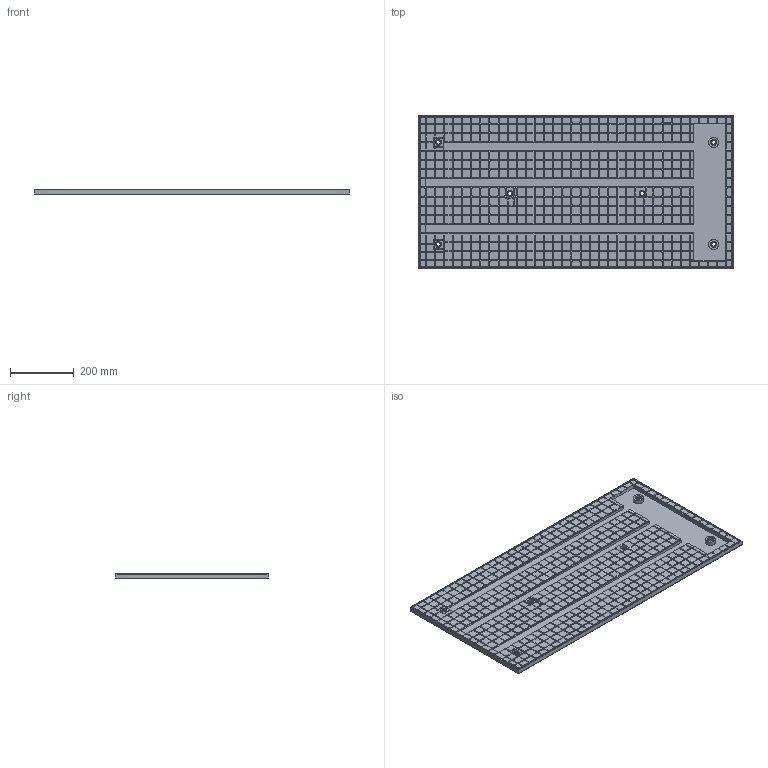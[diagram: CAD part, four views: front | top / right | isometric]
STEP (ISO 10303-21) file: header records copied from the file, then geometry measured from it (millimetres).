
FILE_DESCRIPTION(/* description */ (''),/* implementation_level */ '2;1');
FILE_NAME(/* name */ 'J:/ENG DWG FILES/MACHINE JIGS/Vacuum Plate/Vacuum Plate v21.step',/* time_stamp */ '2019-07-18T10:06:21-04:00',/* author */ (''),/* organization */ (''),/* preprocessor_version */ 'ST-DEVELOPER v18',/* originating_system */ 'Autodesk Translation Framework v8.2.0.1029',/* authorisation */ '');
FILE_SCHEMA (('AUTOMOTIVE_DESIGN { 1 0 10303 214 3 1 1 }'));
Products named in the file (1): Vacuum Plate
Bounding box: 990.6 x 482.6 x 15.88 mm (x, y, z)
Volume: 6378810.5 mm3; surface area: 1160275.8 mm2
Topology: 1 solids, 1 shells, 4074 faces, 11069 edges, 7356 vertices
Faces by surface type: plane 2168, cylinder 1896, torus 6, bspline 4
Full cylindrical faces by diameter (mm): 5.116 x50, 6.35 x49, 12.7 x6, 19.05 x6, 31.75 x2
Entity records: 133758 total; most frequent: CARTESIAN_POINT 27431, DIRECTION 22630, ORIENTED_EDGE 22138, EDGE_CURVE 11069, AXIS2_PLACEMENT_3D 7665, VERTEX_POINT 7356, LINE 7300, VECTOR 7300
